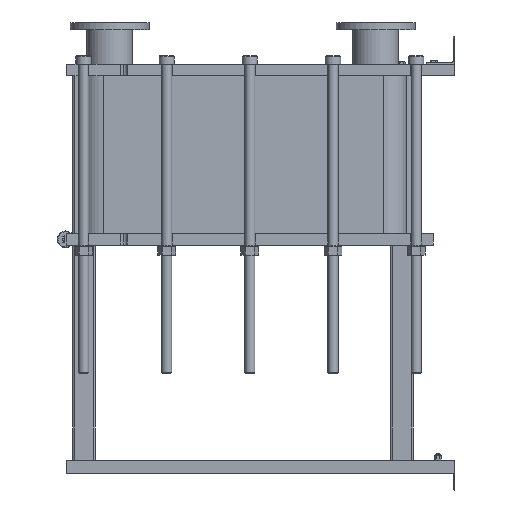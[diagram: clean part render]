
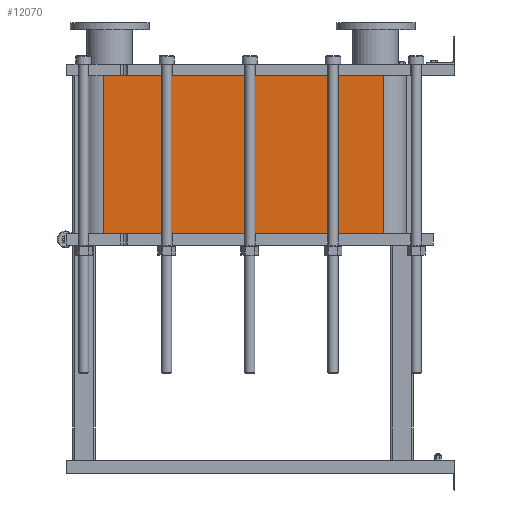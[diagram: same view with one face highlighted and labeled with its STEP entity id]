
A CAD part, left-side view. The second image highlights one B-rep face of the part: STEP entity #12070.
In plain terms, the highlighted planar face has unit normal (-1, 0, 0).
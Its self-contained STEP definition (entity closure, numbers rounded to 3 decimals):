
#1064=LINE('',#21140,#2164);
#1065=LINE('',#21144,#2165);
#1066=LINE('',#21146,#2166);
#1067=LINE('',#21147,#2167);
#2164=VECTOR('',#15790,10.);
#2165=VECTOR('',#15795,10.);
#2166=VECTOR('',#15796,10.);
#2167=VECTOR('',#15797,10.);
#3304=FACE_OUTER_BOUND('',#4091,.T.);
#4091=EDGE_LOOP('',(#9793,#9794,#9795,#9796));
#5677=VERTEX_POINT('',#21137);
#5678=VERTEX_POINT('',#21139);
#5679=VERTEX_POINT('',#21143);
#5680=VERTEX_POINT('',#21145);
#7118=EDGE_CURVE('',#5678,#5677,#1064,.T.);
#7120=EDGE_CURVE('',#5677,#5679,#1065,.T.);
#7121=EDGE_CURVE('',#5680,#5679,#1066,.T.);
#7122=EDGE_CURVE('',#5680,#5678,#1067,.T.);
#9793=ORIENTED_EDGE('',*,*,#7120,.T.);
#9794=ORIENTED_EDGE('',*,*,#7121,.F.);
#9795=ORIENTED_EDGE('',*,*,#7122,.T.);
#9796=ORIENTED_EDGE('',*,*,#7118,.T.);
#11441=PLANE('',#13191);
#12070=ADVANCED_FACE('',(#3304),#11441,.T.);
#13191=AXIS2_PLACEMENT_3D('',#21142,#15793,#15794);
#15790=DIRECTION('',(0.,0.,-1.));
#15793=DIRECTION('center_axis',(-1.,0.,0.));
#15794=DIRECTION('ref_axis',(0.,1.,0.));
#15795=DIRECTION('',(0.,-1.,0.));
#15796=DIRECTION('',(0.,0.,-1.));
#15797=DIRECTION('',(0.,1.,0.));
#21137=CARTESIAN_POINT('',(-248.152,1243.818,-558.9));
#21139=CARTESIAN_POINT('',(-248.152,1243.818,0.));
#21140=CARTESIAN_POINT('',(-248.152,1243.818,0.));
#21142=CARTESIAN_POINT('Origin',(-248.152,251.818,0.));
#21143=CARTESIAN_POINT('',(-248.152,251.818,-558.9));
#21144=CARTESIAN_POINT('',(-248.152,499.818,-558.9));
#21145=CARTESIAN_POINT('',(-248.152,251.818,0.));
#21146=CARTESIAN_POINT('',(-248.152,251.818,0.));
#21147=CARTESIAN_POINT('',(-248.152,251.818,0.));
